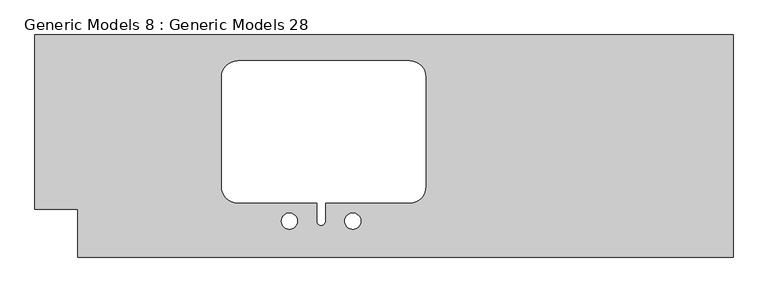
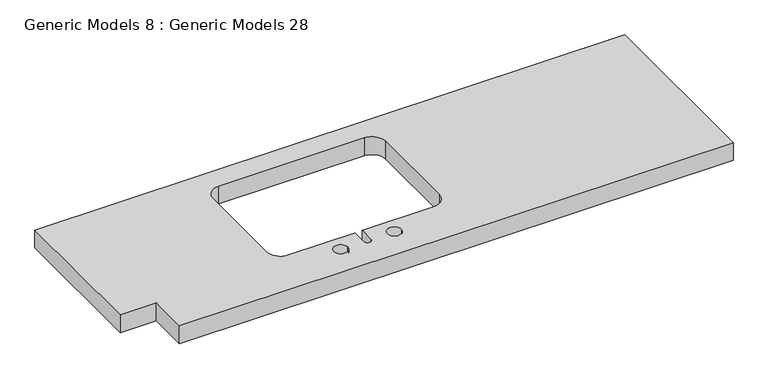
"""IFC4 building model written with IfcOpenShell, lengths in millimetres: proxy geometry, Generic Models 8 : Generic Models 28."""

from ifc_helpers import new_model, si_unit, point, frame, frame_2d, origin, place, context, project, spatial, polyline, circle_curve, trimmed, segment, composite_curve, outline, extrude, source, transform, mapped, element, save


def generic_models_8_generic_models_28_69342459(model_context):
    return source(origin(), model_context, "Body", "SweptSolid", [
        extrude(outline(polyline([(-28362.2739616, -7814.5871375), (-26162.2739616, -7814.5871375), (-26162.2739616, -8514.5871375), (-28227.2739616, -8514.5871375), (-28227.2739616, -8364.5871375), (-28362.2739616, -8364.5871375), (-28362.2739616, -7814.5871375)]), holes=[composite_curve([segment(trimmed(circle_curve(frame_2d((-27722.94305, -7947.1871375)), 50.8), [point((-27722.94305, -7896.3871375))], [point((-27773.74305, -7947.1871375))], True, "CARTESIAN"), True, "CONTINUOUS"), segment(polyline([(-27773.74305, -7947.1871375), (-27773.74305, -8293.1871375)]), True, "CONTINUOUS"), segment(trimmed(circle_curve(frame_2d((-27722.94305, -8293.1871375)), 50.8), [point((-27773.74305, -8293.1871375))], [point((-27722.94305, -8343.9871375))], True, "CARTESIAN"), True, "CONTINUOUS"), segment(polyline([(-27722.94305, -8343.9871375), (-27473.0739616, -8343.9871375), (-27473.0739616, -8401.5287897)]), True, "CONTINUOUS"), segment(trimmed(circle_curve(frame_2d((-27460.3739616, -8401.5287897)), 12.7), [point((-27473.0739616, -8401.5287897))], [point((-27447.6739616, -8401.5287897))], True, "CARTESIAN"), True, "CONTINUOUS"), segment(polyline([(-27447.6739616, -8401.5287897), (-27447.6739616, -8343.9871375), (-27181.44305, -8343.9871375)]), True, "CONTINUOUS"), segment(trimmed(circle_curve(frame_2d((-27181.44305, -8293.1871375)), 50.8), [point((-27181.44305, -8343.9871375))], [point((-27130.64305, -8293.1871375))], True, "CARTESIAN"), True, "CONTINUOUS"), segment(polyline([(-27130.64305, -8293.1871375), (-27130.64305, -7947.1871375)]), True, "CONTINUOUS"), segment(trimmed(circle_curve(frame_2d((-27181.44305, -7947.1871375)), 50.8), [point((-27130.64305, -7947.1871375))], [point((-27181.44305, -7896.3871375))], True, "CARTESIAN"), True, "CONTINUOUS"), segment(polyline([(-27181.44305, -7896.3871375), (-27722.94305, -7896.3871375)]), True, "CONTINUOUS")], self_intersect=False), composite_curve([segment(trimmed(circle_curve(frame_2d((-27360.3739616, -8401.1371375)), 25.4), [point((-27385.7739616, -8401.1371375))], [point((-27334.9739616, -8401.1371375))], True, "CARTESIAN"), True, "CONTINUOUS"), segment(trimmed(circle_curve(frame_2d((-27360.3739616, -8401.1371375)), 25.4), [point((-27334.9739616, -8401.1371375))], [point((-27385.7739616, -8401.1371375))], True, "CARTESIAN"), True, "CONTINUOUS")], self_intersect=False), composite_curve([segment(trimmed(circle_curve(frame_2d((-27560.3739616, -8401.1371375)), 25.4), [point((-27585.7739616, -8401.1371375))], [point((-27534.9739616, -8401.1371375))], True, "CARTESIAN"), True, "CONTINUOUS"), segment(trimmed(circle_curve(frame_2d((-27560.3739616, -8401.1371375)), 25.4), [point((-27534.9739616, -8401.1371375))], [point((-27585.7739616, -8401.1371375))], True, "CARTESIAN"), True, "CONTINUOUS")], self_intersect=False)]), frame((0.0, 0.0, 830.0), z_axis=(0.0, 0.0, 1.0), x_axis=(1.0, 0.0, 0.0)), (0.0, 0.0, 1.0), 70.0),
    ])


if __name__ == "__main__":
    model = new_model("IFC4")
    model_context = context("Model", 3, world=origin())
    ifc_project = project(units=[si_unit("LENGTHUNIT", "METRE", prefix="MILLI")], contexts=[model_context])
    site = spatial("IfcSite", under=ifc_project)
    building = spatial("IfcBuilding", under=site)
    placement = place(None, origin())
    generic_models_8_generic_models_28_shape = generic_models_8_generic_models_28_69342459(model_context)
    element("IfcBuildingElementProxy", 1, Name="Generic Models 8 : Generic Models 28", ObjectType="Generic Models 8 : Generic Models 28", at=placement, inside=building, context=model_context, shape_type="MappedRepresentation", body=[
        mapped(generic_models_8_generic_models_28_shape, transform((0.0, 0.0, 0.0), x_axis=(1.0, 0.0, 0.0), y_axis=(0.0, 1.0, 0.0), z_axis=(0.0, 0.0, 1.0))),
    ])
    save(model, "model.ifc")
